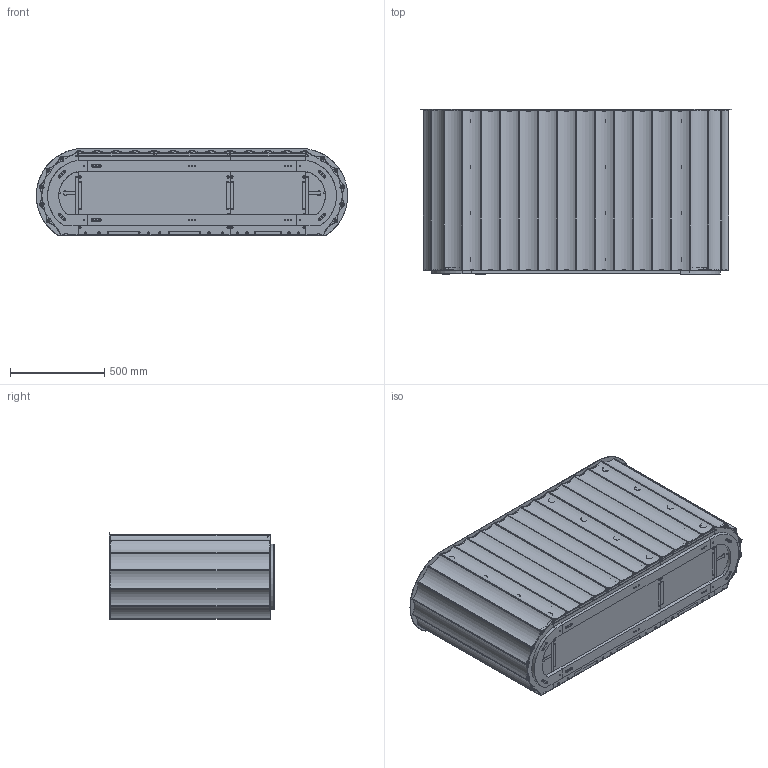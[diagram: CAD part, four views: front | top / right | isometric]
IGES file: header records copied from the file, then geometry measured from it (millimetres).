
Start section: SolidWorks IGES file using analytic representation for surfaces
Global section: file name: \\192.168.0.53\Reserch Development\SITO WEB\2024\File 2D 3D\Prodotti\3D\De Castelli-3D-Dorica Sideboard.IGS; native system: SolidWorks 2025; preprocessor: SolidWorks 2025; author: lauraa; date: 260407.092459; units: millimetre
Bounding box: 1654.64 x 877.65 x 459.3 mm (x, y, z)
Surface area: 13884429.2 mm2 (no closed solid volume)
Topology: 0 solids, 0 shells, 1502 faces, 25677 edges, 25669 vertices
Faces by surface type: bspline 876, revolution 626
